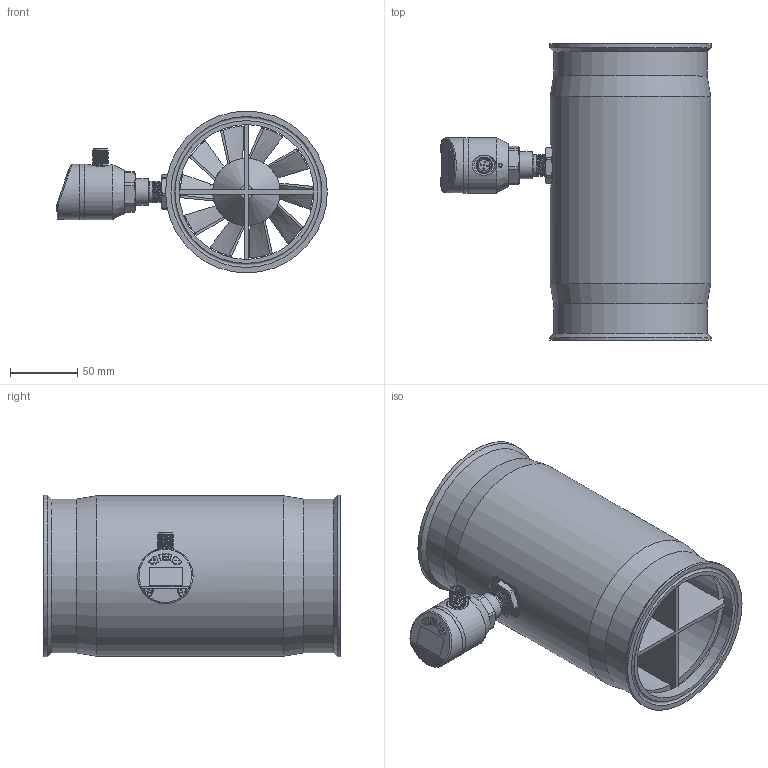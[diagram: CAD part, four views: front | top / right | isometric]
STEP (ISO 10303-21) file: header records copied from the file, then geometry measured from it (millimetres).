
FILE_DESCRIPTION( (''), '2;1');
FILE_NAME( 'QTKA_DN100_tri-clamp.step', '2024-01-11T14:27:44+08:00', (''), (''), '', '', '');
FILE_SCHEMA (('AUTOMOTIVE_DESIGN { 1 0 10303 214 3 1 1 1 }'));
Length unit declared in the file: millimetre
Products named in the file (1): QTKA DN100_tri-clamp
Bounding box: 200.8 x 220 x 120 mm (x, y, z)
Volume: 927531.5 mm3; surface area: 275071.2 mm2
Topology: 8 solids, 10 shells, 546 faces, 1363 edges, 875 vertices
Faces by surface type: plane 187, cylinder 181, cone 69, bspline 62, torus 41, sphere 6
Full cylindrical faces by diameter (mm): 1 x5, 2.7 x4, 6 x2, 8.4 x1, 9.7 x1, 9.8 x1, 10.1 x1, 11.6 x1, 12 x1, 15.9 x1, 16.5 x1, 20 x1, 23 x3, 26 x4, 26.1 x1, 37 x1, 41 x3, 45 x1, 50 x2, 100 x3, 110 x2, 114 x2, 119 x1, 120 x2
Entity records: 32788 total; most frequent: CARTESIAN_POINT 19205, ORIENTED_EDGE 2472, DIRECTION 2394, EDGE_CURVE 1236, AXIS2_PLACEMENT_3D 962, VERTEX_POINT 825, EDGE_LOOP 667, ADVANCED_FACE 544
